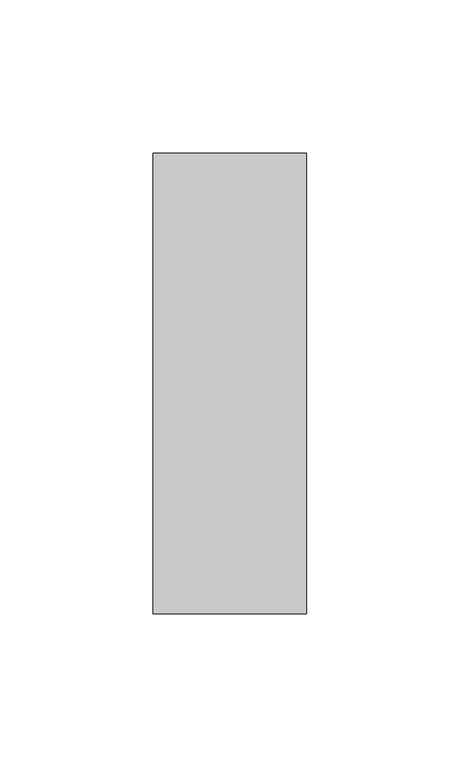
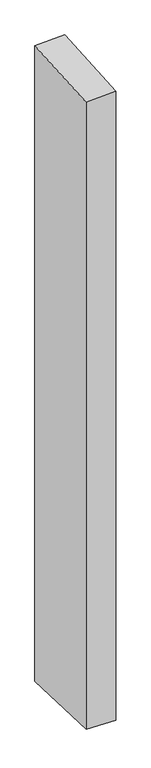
"""IFC4 building model written with IfcOpenShell, lengths in millimetres: member geometry, Прямоугольный импост : 50 x 150 мм."""

from ifc_helpers import new_model, si_unit, origin, place, context, project, spatial, faceted_brep, source, transform, mapped, element, save


def member_8bc29611(model_context):
    return source(origin(), model_context, "Body", "Brep", [
        faceted_brep([(-25.0, 75.0, 4.0149), (25.0, 75.0, 5.8099465), (25.0, 75.0, -1132.5939991), (-25.0, 75.0, -1130.9695965), (-25.0, -75.0, -5.8099465), (-25.0, -75.0, -1125.8323347), (25.0, -75.0, -4.0149), (25.0, -75.0, -1127.4567373)], [[[0, 1, 2, 3]], [[4, 0, 3, 5]], [[6, 4, 5, 7]], [[1, 6, 7, 2]], [[1, 0, 4, 6]], [[2, 7, 5, 3]]]),
    ])


if __name__ == "__main__":
    model = new_model("IFC4")
    model_context = context("Model", 3, world=origin())
    ifc_project = project(units=[si_unit("LENGTHUNIT", "METRE", prefix="MILLI")], contexts=[model_context])
    site = spatial("IfcSite", under=ifc_project)
    building = spatial("IfcBuilding", under=site)
    placement = place(None, origin())
    member_shape = member_8bc29611(model_context)
    element("IfcMember", 1, ObjectType="Прямоугольный импост : 50 x 150 мм", at=placement, inside=building, context=model_context, shape_type="MappedRepresentation", body=[
        mapped(member_shape, transform((0.0, 0.0, 0.0), x_axis=(1.0, 0.0, 0.0), y_axis=(0.0, 1.0, 0.0), z_axis=(0.0, 0.0, 1.0))),
    ])
    save(model, "model.ifc")
